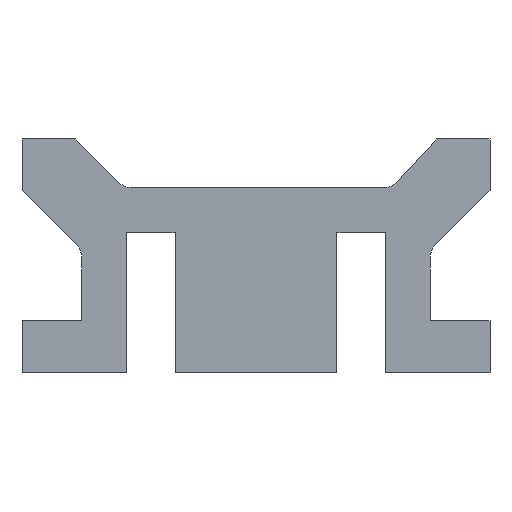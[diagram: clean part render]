
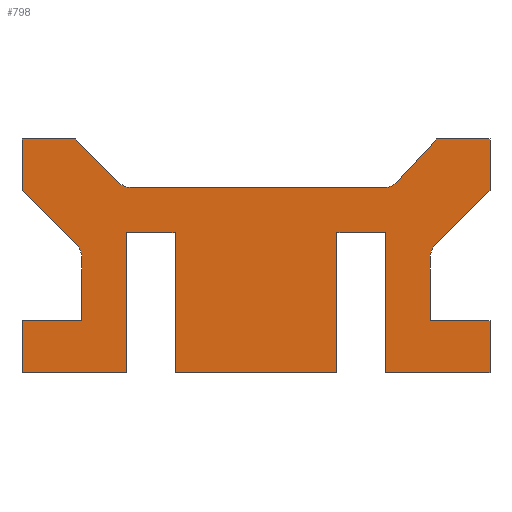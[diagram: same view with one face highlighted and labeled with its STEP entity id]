
A CAD part, front view. The second image highlights one B-rep face of the part: STEP entity #798.
In plain terms, the highlighted planar face has unit normal (0, -1, 0).
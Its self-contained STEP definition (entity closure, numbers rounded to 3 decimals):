
#1=DIRECTION('',(-0.707,0.,0.707));
#2=VECTOR('',#1,6.525);
#3=CARTESIAN_POINT('',(-14.686,-100.,-4.614));
#4=LINE('',#3,#2);
#5=DIRECTION('',(-1.,0.,0.));
#6=VECTOR('',#5,26.896);
#7=CARTESIAN_POINT('',(13.624,-100.,-5.2));
#8=LINE('',#7,#6);
#9=DIRECTION('',(-0.678,0.,-0.735));
#10=VECTOR('',#9,6.201);
#11=CARTESIAN_POINT('',(19.3,-100.,0.));
#12=LINE('',#11,#10);
#13=DIRECTION('',(1.,0.,0.));
#14=VECTOR('',#13,5.7);
#15=CARTESIAN_POINT('',(19.3,-100.,0.));
#16=LINE('',#15,#14);
#17=DIRECTION('',(0.,0.,-1.));
#18=VECTOR('',#17,5.472);
#19=CARTESIAN_POINT('',(25.,-100.,0.));
#20=LINE('',#19,#18);
#21=DIRECTION('',(0.707,0.,0.707));
#22=VECTOR('',#21,8.223);
#23=CARTESIAN_POINT('',(19.186,-100.,-11.287));
#24=LINE('',#23,#22);
#25=DIRECTION('',(0.,0.,1.));
#26=VECTOR('',#25,6.699);
#27=CARTESIAN_POINT('',(18.6,-100.,-19.4));
#28=LINE('',#27,#26);
#29=DIRECTION('',(-1.,0.,0.));
#30=VECTOR('',#29,6.4);
#31=CARTESIAN_POINT('',(25.,-100.,-19.4));
#32=LINE('',#31,#30);
#33=DIRECTION('',(0.,0.,-1.));
#34=VECTOR('',#33,5.6);
#35=CARTESIAN_POINT('',(25.,-100.,-19.4));
#36=LINE('',#35,#34);
#37=DIRECTION('',(-1.,0.,0.));
#38=VECTOR('',#37,11.15);
#39=CARTESIAN_POINT('',(25.,-100.,-25.));
#40=LINE('',#39,#38);
#41=DIRECTION('',(0.,0.,1.));
#42=VECTOR('',#41,15.);
#43=CARTESIAN_POINT('',(13.85,-100.,-25.));
#44=LINE('',#43,#42);
#45=DIRECTION('',(1.,0.,0.));
#46=VECTOR('',#45,5.2);
#47=CARTESIAN_POINT('',(8.65,-100.,-10.));
#48=LINE('',#47,#46);
#49=DIRECTION('',(0.,0.,1.));
#50=VECTOR('',#49,15.);
#51=CARTESIAN_POINT('',(8.65,-100.,-25.));
#52=LINE('',#51,#50);
#53=DIRECTION('',(-1.,0.,0.));
#54=VECTOR('',#53,17.3);
#55=CARTESIAN_POINT('',(8.65,-100.,-25.));
#56=LINE('',#55,#54);
#57=DIRECTION('',(0.,0.,1.));
#58=VECTOR('',#57,15.);
#59=CARTESIAN_POINT('',(-8.65,-100.,-25.));
#60=LINE('',#59,#58);
#61=DIRECTION('',(1.,0.,0.));
#62=VECTOR('',#61,5.2);
#63=CARTESIAN_POINT('',(-13.85,-100.,-10.));
#64=LINE('',#63,#62);
#65=DIRECTION('',(0.,0.,1.));
#66=VECTOR('',#65,15.);
#67=CARTESIAN_POINT('',(-13.85,-100.,-25.));
#68=LINE('',#67,#66);
#69=DIRECTION('',(-1.,0.,0.));
#70=VECTOR('',#69,11.15);
#71=CARTESIAN_POINT('',(-13.85,-100.,-25.));
#72=LINE('',#71,#70);
#73=DIRECTION('',(0.,0.,1.));
#74=VECTOR('',#73,5.6);
#75=CARTESIAN_POINT('',(-25.,-100.,-25.));
#76=LINE('',#75,#74);
#77=DIRECTION('',(1.,0.,0.));
#78=VECTOR('',#77,6.4);
#79=CARTESIAN_POINT('',(-25.,-100.,-19.4));
#80=LINE('',#79,#78);
#81=DIRECTION('',(0.,0.,-1.));
#82=VECTOR('',#81,6.699);
#83=CARTESIAN_POINT('',(-18.6,-100.,-12.701));
#84=LINE('',#83,#82);
#85=DIRECTION('',(0.707,0.,-0.707));
#86=VECTOR('',#85,8.223);
#87=CARTESIAN_POINT('',(-25.,-100.,-5.472));
#88=LINE('',#87,#86);
#89=DIRECTION('',(0.,0.,1.));
#90=VECTOR('',#89,5.472);
#91=CARTESIAN_POINT('',(-25.,-100.,-5.472));
#92=LINE('',#91,#90);
#93=DIRECTION('',(1.,0.,0.));
#94=VECTOR('',#93,5.7);
#95=CARTESIAN_POINT('',(-25.,-100.,0.));
#96=LINE('',#95,#94);
#106=CARTESIAN_POINT('',(-13.272,-100.,-3.2));
#107=DIRECTION('',(0.,1.,0.));
#108=DIRECTION('',(0.,0.,-1.));
#109=AXIS2_PLACEMENT_3D('',#106,#107,#108);
#248=CARTESIAN_POINT('',(13.624,-100.,-3.2));
#249=DIRECTION('',(0.,1.,0.));
#250=DIRECTION('',(0.735,0.,-0.678));
#251=AXIS2_PLACEMENT_3D('',#248,#249,#250);
#290=CARTESIAN_POINT('',(-20.6,-100.,-12.701));
#291=DIRECTION('',(0.,1.,0.));
#292=DIRECTION('',(0.707,0.,0.707));
#293=AXIS2_PLACEMENT_3D('',#290,#291,#292);
#392=CARTESIAN_POINT('',(20.6,-100.,-12.701));
#393=DIRECTION('',(0.,1.,0.));
#394=DIRECTION('',(-1.,0.,0.));
#395=AXIS2_PLACEMENT_3D('',#392,#393,#394);
#563=CARTESIAN_POINT('',(-25.,-100.,0.));
#565=VERTEX_POINT('',#563);
#567=CARTESIAN_POINT('',(25.,-100.,0.));
#569=VERTEX_POINT('',#567);
#571=CARTESIAN_POINT('',(25.,-100.,-25.));
#573=VERTEX_POINT('',#571);
#575=CARTESIAN_POINT('',(-25.,-100.,-25.));
#577=VERTEX_POINT('',#575);
#579=CARTESIAN_POINT('',(-13.85,-100.,-25.));
#580=CARTESIAN_POINT('',(-13.85,-100.,-10.));
#581=VERTEX_POINT('',#579);
#582=VERTEX_POINT('',#580);
#583=CARTESIAN_POINT('',(-8.65,-100.,-10.));
#584=VERTEX_POINT('',#583);
#585=CARTESIAN_POINT('',(-8.65,-100.,-25.));
#586=VERTEX_POINT('',#585);
#587=CARTESIAN_POINT('',(-25.,-100.,-19.4));
#588=CARTESIAN_POINT('',(-18.6,-100.,-19.4));
#589=VERTEX_POINT('',#587);
#590=VERTEX_POINT('',#588);
#591=CARTESIAN_POINT('',(8.65,-100.,-25.));
#592=CARTESIAN_POINT('',(8.65,-100.,-10.));
#593=VERTEX_POINT('',#591);
#594=VERTEX_POINT('',#592);
#595=CARTESIAN_POINT('',(13.85,-100.,-10.));
#596=VERTEX_POINT('',#595);
#597=CARTESIAN_POINT('',(13.85,-100.,-25.));
#598=VERTEX_POINT('',#597);
#599=CARTESIAN_POINT('',(25.,-100.,-19.4));
#600=CARTESIAN_POINT('',(18.6,-100.,-19.4));
#601=VERTEX_POINT('',#599);
#602=VERTEX_POINT('',#600);
#627=CARTESIAN_POINT('',(-19.3,-100.,0.));
#629=VERTEX_POINT('',#627);
#631=CARTESIAN_POINT('',(19.3,-100.,0.));
#633=VERTEX_POINT('',#631);
#635=CARTESIAN_POINT('',(25.,-100.,-5.472));
#637=VERTEX_POINT('',#635);
#639=CARTESIAN_POINT('',(-25.,-100.,-5.472));
#641=VERTEX_POINT('',#639);
#680=CARTESIAN_POINT('',(13.624,-100.,-5.2));
#682=VERTEX_POINT('',#680);
#684=CARTESIAN_POINT('',(15.094,-100.,-4.557));
#686=VERTEX_POINT('',#684);
#688=CARTESIAN_POINT('',(-14.686,-100.,-4.614));
#690=VERTEX_POINT('',#688);
#692=CARTESIAN_POINT('',(-13.272,-100.,-5.2));
#694=VERTEX_POINT('',#692);
#696=CARTESIAN_POINT('',(19.186,-100.,-11.287));
#698=VERTEX_POINT('',#696);
#700=CARTESIAN_POINT('',(18.6,-100.,-12.701));
#702=VERTEX_POINT('',#700);
#704=CARTESIAN_POINT('',(-18.6,-100.,-12.701));
#706=VERTEX_POINT('',#704);
#708=CARTESIAN_POINT('',(-19.186,-100.,-11.287));
#710=VERTEX_POINT('',#708);
#735=CARTESIAN_POINT('',(0.,-100.,0.));
#736=DIRECTION('',(0.,1.,0.));
#737=DIRECTION('',(1.,0.,0.));
#738=AXIS2_PLACEMENT_3D('',#735,#736,#737);
#739=PLANE('',#738);
#741=ORIENTED_EDGE('',*,*,#740,.F.);
#743=ORIENTED_EDGE('',*,*,#742,.F.);
#745=ORIENTED_EDGE('',*,*,#744,.F.);
#747=ORIENTED_EDGE('',*,*,#746,.F.);
#749=ORIENTED_EDGE('',*,*,#748,.F.);
#751=ORIENTED_EDGE('',*,*,#750,.T.);
#753=ORIENTED_EDGE('',*,*,#752,.T.);
#755=ORIENTED_EDGE('',*,*,#754,.F.);
#757=ORIENTED_EDGE('',*,*,#756,.F.);
#759=ORIENTED_EDGE('',*,*,#758,.F.);
#761=ORIENTED_EDGE('',*,*,#760,.F.);
#763=ORIENTED_EDGE('',*,*,#762,.T.);
#765=ORIENTED_EDGE('',*,*,#764,.T.);
#767=ORIENTED_EDGE('',*,*,#766,.T.);
#769=ORIENTED_EDGE('',*,*,#768,.F.);
#771=ORIENTED_EDGE('',*,*,#770,.F.);
#773=ORIENTED_EDGE('',*,*,#772,.T.);
#775=ORIENTED_EDGE('',*,*,#774,.T.);
#777=ORIENTED_EDGE('',*,*,#776,.F.);
#779=ORIENTED_EDGE('',*,*,#778,.F.);
#781=ORIENTED_EDGE('',*,*,#780,.T.);
#783=ORIENTED_EDGE('',*,*,#782,.T.);
#785=ORIENTED_EDGE('',*,*,#784,.T.);
#787=ORIENTED_EDGE('',*,*,#786,.F.);
#789=ORIENTED_EDGE('',*,*,#788,.F.);
#791=ORIENTED_EDGE('',*,*,#790,.F.);
#793=ORIENTED_EDGE('',*,*,#792,.T.);
#795=ORIENTED_EDGE('',*,*,#794,.T.);
#796=EDGE_LOOP('',(#741,#743,#745,#747,#749,#751,#753,#755,#757,#759,#761,#763,
#765,#767,#769,#771,#773,#775,#777,#779,#781,#783,#785,#787,#789,#791,#793,
#795));
#797=FACE_OUTER_BOUND('',#796,.F.);
#798=ADVANCED_FACE('',(#797),#739,.F.);
#110=CIRCLE('',#109,2.);
#252=CIRCLE('',#251,2.);
#294=CIRCLE('',#293,2.);
#396=CIRCLE('',#395,2.);
#740=EDGE_CURVE('',#690,#629,#4,.T.);
#742=EDGE_CURVE('',#694,#690,#110,.T.);
#744=EDGE_CURVE('',#682,#694,#8,.T.);
#746=EDGE_CURVE('',#686,#682,#252,.T.);
#748=EDGE_CURVE('',#633,#686,#12,.T.);
#750=EDGE_CURVE('',#633,#569,#16,.T.);
#752=EDGE_CURVE('',#569,#637,#20,.T.);
#754=EDGE_CURVE('',#698,#637,#24,.T.);
#756=EDGE_CURVE('',#702,#698,#396,.T.);
#758=EDGE_CURVE('',#602,#702,#28,.T.);
#760=EDGE_CURVE('',#601,#602,#32,.T.);
#762=EDGE_CURVE('',#601,#573,#36,.T.);
#764=EDGE_CURVE('',#573,#598,#40,.T.);
#766=EDGE_CURVE('',#598,#596,#44,.T.);
#768=EDGE_CURVE('',#594,#596,#48,.T.);
#770=EDGE_CURVE('',#593,#594,#52,.T.);
#772=EDGE_CURVE('',#593,#586,#56,.T.);
#774=EDGE_CURVE('',#586,#584,#60,.T.);
#776=EDGE_CURVE('',#582,#584,#64,.T.);
#778=EDGE_CURVE('',#581,#582,#68,.T.);
#780=EDGE_CURVE('',#581,#577,#72,.T.);
#782=EDGE_CURVE('',#577,#589,#76,.T.);
#784=EDGE_CURVE('',#589,#590,#80,.T.);
#786=EDGE_CURVE('',#706,#590,#84,.T.);
#788=EDGE_CURVE('',#710,#706,#294,.T.);
#790=EDGE_CURVE('',#641,#710,#88,.T.);
#792=EDGE_CURVE('',#641,#565,#92,.T.);
#794=EDGE_CURVE('',#565,#629,#96,.T.);
